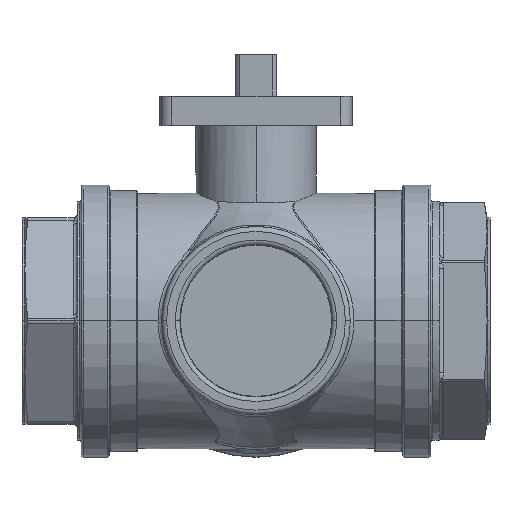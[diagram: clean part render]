
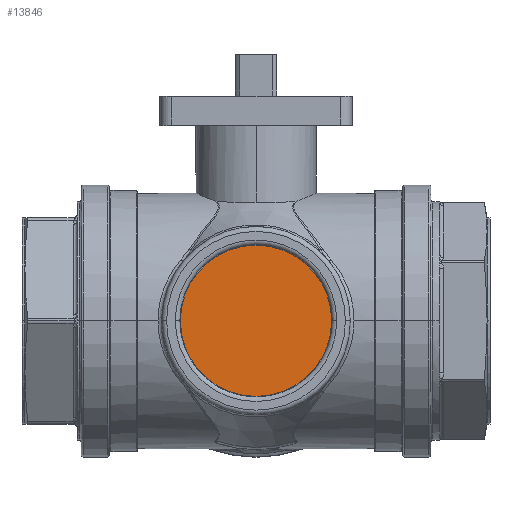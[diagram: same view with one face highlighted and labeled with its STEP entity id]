
A CAD part, top view. The second image highlights one B-rep face of the part: STEP entity #13846.
In plain terms, the highlighted planar face has unit normal (0, 0, 1).
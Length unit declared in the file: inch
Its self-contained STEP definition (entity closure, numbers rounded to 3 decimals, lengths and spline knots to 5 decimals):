
#119 = DIRECTION ( 'NONE',  ( 0., 0., 1. ) ) ;
#1476 = ORIENTED_EDGE ( 'NONE', *, *, #6405, .T. ) ;
#1624 = DIRECTION ( 'NONE',  ( 0., 0., 1. ) ) ;
#3371 = CIRCLE ( 'NONE', #10531, 0.78708 ) ;
#3954 = CARTESIAN_POINT ( 'NONE',  ( 0., 0., 1.46 ) ) ;
#4484 = VERTEX_POINT ( 'NONE', #13943 ) ;
#4828 = CARTESIAN_POINT ( 'NONE',  ( 0., -0.78708, 1.46 ) ) ;
#5040 = DIRECTION ( 'NONE',  ( 1., 0., 0. ) ) ;
#5176 = AXIS2_PLACEMENT_3D ( 'NONE', #4828, #1624, #9168 ) ;
#5904 = PLANE ( 'NONE',  #5176 ) ;
#6305 = AXIS2_PLACEMENT_3D ( 'NONE', #6574, #119, #7646 ) ;
#6405 = EDGE_CURVE ( 'NONE', #13404, #4484, #3371, .T. ) ;
#6574 = CARTESIAN_POINT ( 'NONE',  ( 0., 0., 1.46 ) ) ;
#7494 = EDGE_LOOP ( 'NONE', ( #9528, #1476 ) ) ;
#7646 = DIRECTION ( 'NONE',  ( 1., 0., 0. ) ) ;
#9168 = DIRECTION ( 'NONE',  ( 1., 0., 0. ) ) ;
#9528 = ORIENTED_EDGE ( 'NONE', *, *, #9696, .T. ) ;
#9696 = EDGE_CURVE ( 'NONE', #4484, #13404, #13792, .T. ) ;
#10147 = CARTESIAN_POINT ( 'NONE',  ( -0.78708, 0., 1.46 ) ) ;
#10531 = AXIS2_PLACEMENT_3D ( 'NONE', #3954, #11476, #5040 ) ;
#11476 = DIRECTION ( 'NONE',  ( 0., 0., 1. ) ) ;
#13064 = FACE_OUTER_BOUND ( 'NONE', #7494, .T. ) ;
#13404 = VERTEX_POINT ( 'NONE', #10147 ) ;
#13792 = CIRCLE ( 'NONE', #6305, 0.78708 ) ;
#13846 = ADVANCED_FACE ( 'NONE', ( #13064 ), #5904, .T. ) ;
#13943 = CARTESIAN_POINT ( 'NONE',  ( 0.78708, 0., 1.46 ) ) ;
